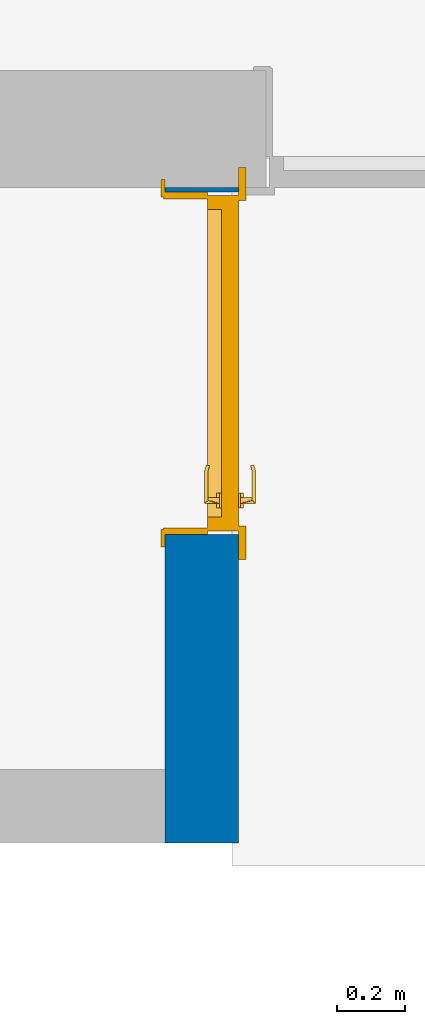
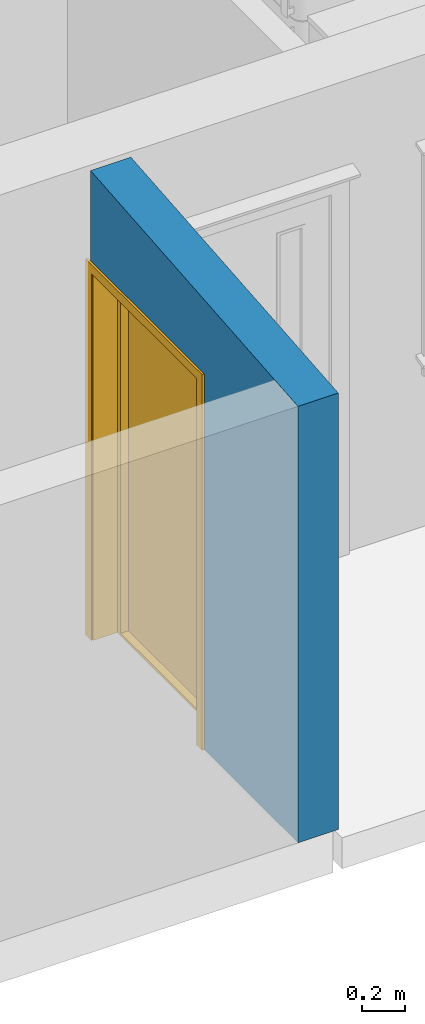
# One storey, part 3 of 65: 1 door, 1 wall, 1 opening.
"""IFC2X3 building model written with IfcOpenShell, lengths in millimetres."""

from ifc_helpers import new_model, entity, si_unit, converted_unit, direction, frame, frame_2d, origin, place, context, subcontext, project, spatial, polyline, rectangle, extrude, clip, bounded_halfspace, faceted_brep, source, transform, mapped, material, material_list, layer, layer_set, layer_usage, type_object, type_shapes, element, fill, save


model = new_model("IFC2X3")

# Units and contexts
model_context = context("Model", 3, precision=0.01, world=origin(), true_north=direction((0.0, 1.0)))
body_context = subcontext(model_context, "Body", "Model", "MODEL_VIEW")
ifc_project = project(units=[si_unit("LENGTHUNIT", "METRE", prefix="MILLI"), si_unit("AREAUNIT", "SQUARE_METRE"), si_unit("VOLUMEUNIT", "CUBIC_METRE"), converted_unit("PLANEANGLEUNIT", "DEGREE", entity("IfcPlaneAngleMeasure", 0.017453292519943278), si_unit("PLANEANGLEUNIT", "RADIAN"), dimensions=[0, 0, 0, 0, 0, 0, 0])], contexts=[model_context])

# Site, building, storey
site_placement = place(None, origin())
site = spatial("IfcSite", under=ifc_project, at=site_placement, Name="Default", CompositionType="ELEMENT")
building_placement = place(site_placement, origin())
building = spatial("IfcBuilding", under=site, at=building_placement, CompositionType="ELEMENT")
storey_placement = place(building_placement, origin())
storey = spatial("IfcBuildingStorey", under=building, at=storey_placement, Name="Et. 1", CompositionType="ELEMENT", Elevation=0.0)

# Wall, opening, door
ifc_material_1 = material(Name="Vegg - Stående Kledning_smal - HVIT")
ifc_layer_1 = layer(ifc_material_1, 19.0)
ifc_material_2 = material(Name="Vegg - Stender - Isolert")
ifc_layer_2 = layer(ifc_material_2, 198.0)
ifc_layer_set = layer_set([ifc_layer_1, ifc_layer_2], Name="Basic Wall:23-Kv(sm)TIG-19_Bod")
ifc_layer_usage = layer_usage(ifc_layer_set, "AXIS2", "NEGATIVE", 108.5)
wall_type = type_object("IfcWallType", Name="Basic Wall:23-Kv(sm)TIG-19_Bod", PredefinedType="STANDARD", material=ifc_layer_set)
wall_placement = place(storey_placement, frame((12788.5095867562, 11408.180957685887, 0.0), z_axis=(0.0, 0.0, 1.0), x_axis=(0.0, -1.0, 0.0)))
wall = element("IfcWallStandardCase", 1, at=wall_placement, inside=storey, type_object=wall_type, material=ifc_layer_usage, Name="Basic Wall:23-Kv(sm)TIG-19_Bod", context=body_context, shape_type="Clipping", body=[
    clip(extrude(rectangle(XDim=1931.999999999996, YDim=217.00000000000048, at=frame_2d((965.9999999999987, -1.0729195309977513e-12), x_axis=(1.0, 0.0))), origin(), (0.0, 0.0, 1.0), 2650.028097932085), bounded_halfspace(frame((0.0, -108.50000000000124, 2650.0280979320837), z_axis=(0.08715574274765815, 0.0, 0.9961946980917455), x_axis=(0.0, 1.0, 0.0)), False, frame((0.0, -108.50000000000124, 2650.0280979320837)), polyline([(0.0, 0.0), (1715.0, 0.0), (1932.0, 0.0), (1932.0, 217.0), (0.0, 217.0), (0.0, 0.0)]))),
])
opening_placement = place(wall_placement, frame((13.0, -108.49999999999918, 0.0)))
opening = element("IfcOpeningElement", 2, at=opening_placement, cuts=wall, Name="YD Hel omramming:10x21M:1", ObjectType="Opening", context=body_context, shape_type="SweptSolid", body=[
    extrude(rectangle(XDim=1010.0000000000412, YDim=2100.0000000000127, at=frame_2d((1050.0000000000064, 505.0000000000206), x_axis=(0.0, -1.0))), frame((0.0, 0.0, 0.0), z_axis=(0.0, 1.0, 0.0), x_axis=(0.0, 0.0, 1.0)), (0.0, 0.0, 1.0), 217.0),
])
ifc_material_3 = material(Name="Karm")
ifc_material_4 = material(Name="Dør - Håndtak")
ifc_material_5 = material(Name="Dør - Dørblad")
ifc_material_6 = material(Name="Dør - Terskel - Eik")
ifc_material_list = material_list([ifc_material_3, ifc_material_4, ifc_material_5, ifc_material_6])
door_style = type_object("IfcDoorStyle", Name="YD Hel omramming:10x21M", ConstructionType="NOTDEFINED", OperationType="SINGLE_SWING_LEFT", ParameterTakesPrecedence=False, Sizeable=False, material=ifc_material_list)
shared_shape = source(origin(), body_context, "Body", "Brep", [
    faceted_brep([(1113.0, 284.5268751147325, 2160.8011105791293), (1113.0, 289.44443697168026, 2179.153701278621), (1113.0, 217.0, 2198.56512966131), (1113.0, 217.0, 2178.894882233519), (-103.0, 284.5268751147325, 2160.8011105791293), (-103.0, 217.0, 2178.894882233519), (-103.0, 217.0, 2198.56512966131), (-103.0, 289.44443697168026, 2179.153701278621)], [[[0, 1, 2, 3]], [[4, 5, 6, 7]], [[1, 0, 4, 7]], [[2, 1, 7, 6]], [[3, 2, 6, 5]], [[0, 3, 5, 4]]]),
    faceted_brep([(25.0, 239.0, 2173.0), (985.0, 239.0, 2173.0), (985.0, 239.0, 2075.0), (25.0, 239.0, 2075.0), (25.0, 217.0, 2173.0), (25.0, 217.0, 2075.0), (985.0, 217.0, 2075.0), (985.0, 217.0, 2173.0)], [[[0, 1, 2, 3]], [[4, 5, 6, 7]], [[1, 0, 4, 7]], [[2, 1, 7, 6]], [[3, 2, 6, 5]], [[0, 3, 5, 4]]]),
    faceted_brep([(-73.0, 239.0, 2179.153701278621), (25.0, 239.0, 2179.153701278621), (25.0, 239.0, 0.0), (-73.0, 239.0, 0.0), (-73.0, 217.0, 2179.153701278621), (25.0, 217.0, 2179.153701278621), (25.0, 217.0, 0.0), (-73.0, 217.0, 0.0)], [[[0, 1, 2, 3]], [[1, 0, 4, 5]], [[2, 1, 5, 6]], [[3, 2, 6, 7]], [[0, 3, 7, 4]], [[4, 7, 6, 5]]]),
    faceted_brep([(985.0, 217.0, 2179.153701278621), (985.0, 217.0, 0.0), (1083.0, 217.0, 0.0), (1083.0, 217.0, 2179.153701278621), (1083.0, 239.0, 2179.153701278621), (985.0, 239.0, 2179.153701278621), (1083.0, 239.0, 0.0), (985.0, 239.0, 0.0)], [[[0, 1, 2, 3]], [[4, 5, 0, 3]], [[6, 4, 3, 2]], [[7, 6, 2, 1]], [[5, 7, 1, 0]], [[5, 4, 6, 7]]]),
    faceted_brep([(910.0, 117.0, 1061.0), (822.4876577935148, 117.0, 1061.0), (804.4308821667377, 121.8382984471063, 1061.0), (807.019072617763, 131.49755670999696, 1061.0), (823.8041827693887, 127.0, 1061.0), (910.0, 127.0, 1061.0), (907.6706285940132, 127.0, 1061.306667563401), (823.8041827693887, 127.0, 1079.0), (910.0, 127.0, 1079.0), (907.6706285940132, 127.0, 1078.6933324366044), (905.499999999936, 127.0, 1077.7942286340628), (903.636038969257, 127.0, 1076.3639610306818), (902.205771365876, 127.0, 1074.500000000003), (901.3066675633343, 127.0, 1072.3293714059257), (901.0, 127.0, 1070.0), (901.3066675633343, 127.0, 1067.6706285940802), (902.205771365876, 127.0, 1065.5000000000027), (903.636038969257, 127.0, 1063.6360389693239), (905.499999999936, 127.0, 1062.2057713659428), (910.0, 117.0, 1079.0), (807.019072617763, 131.49755670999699, 1079.0), (804.4308821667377, 121.83829844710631, 1079.0), (822.4876577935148, 117.0, 1079.0), (919.0, 117.0, 1070.0), (918.7739335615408, 117.0, 1072.0045173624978), (918.1082066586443, 117.0, 1073.9060190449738), (917.0361879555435, 117.0, 1075.6117785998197), (915.6117785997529, 117.0, 1077.0361879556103), (913.9060190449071, 117.0, 1078.1082066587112), (912.0038376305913, 117.0, 1078.7740888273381), (912.0038376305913, 117.0, 1061.2259111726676), (913.9060190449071, 117.0, 1061.8917933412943), (915.6117785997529, 117.0, 1062.9638120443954), (917.0361879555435, 117.0, 1064.3882214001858), (918.1082066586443, 117.0, 1066.0939809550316), (918.7739335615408, 117.0, 1067.9954826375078), (918.6933324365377, 161.0, 1072.3293714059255), (919.0, 161.0, 1070.0), (917.7942286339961, 161.0, 1074.5000000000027), (916.3639610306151, 161.0, 1076.3639610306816), (914.4999999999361, 161.0, 1077.7942286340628), (912.3293714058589, 161.0, 1078.6933324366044), (907.6706285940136, 161.0, 1078.6933324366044), (910.0, 161.0, 1079.0), (905.4999999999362, 161.0, 1077.7942286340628), (903.6360389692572, 161.0, 1076.3639610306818), (902.2057713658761, 161.0, 1074.500000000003), (901.3066675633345, 161.0, 1072.3293714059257), (901.0, 161.0, 1070.0), (901.3066675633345, 161.0, 1067.67062859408), (902.2057713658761, 161.0, 1065.5000000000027), (903.6360389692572, 161.0, 1063.6360389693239), (905.4999999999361, 161.0, 1062.2057713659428), (907.6706285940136, 161.0, 1061.306667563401), (910.0, 161.0, 1061.0), (912.3293714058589, 161.0, 1061.306667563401), (914.4999999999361, 161.0, 1062.2057713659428), (916.363961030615, 161.0, 1063.6360389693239), (918.6933324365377, 161.0, 1067.6706285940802), (917.7942286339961, 161.0, 1065.500000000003), (899.0, 161.0, 1089.0525588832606), (894.443650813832, 161.0, 1085.556349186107), (904.3059810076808, 161.0, 1091.2503681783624), (910.0, 161.0, 1092.0), (915.6940189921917, 161.0, 1091.2503681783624), (921.0, 161.0, 1089.0525588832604), (925.5563491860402, 161.0, 1085.556349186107), (929.0525588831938, 161.0, 1081.0), (931.2503681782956, 161.0, 1075.6940189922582), (932.0, 161.0, 1070.0), (931.2503681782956, 161.0, 1064.3059810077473), (929.0525588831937, 161.0, 1059.0), (925.55634918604, 161.0, 1054.4436508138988), (921.0, 161.0, 1050.947441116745), (915.6940189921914, 161.0, 1048.7496318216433), (910.0, 161.0, 1048.0), (904.3059810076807, 161.0, 1048.7496318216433), (899.0, 161.0, 1050.9474411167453), (894.443650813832, 161.0, 1054.4436508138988), (890.9474411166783, 161.0, 1059.0), (888.7496318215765, 161.0, 1064.3059810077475), (888.0, 161.0, 1070.0), (888.7496318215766, 161.0, 1075.6940189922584), (890.9474411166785, 161.0, 1081.0), (904.3059810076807, 167.0, 1048.7496318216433), (899.0, 167.0, 1050.9474411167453), (894.443650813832, 167.0, 1054.4436508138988), (890.9474411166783, 167.0, 1059.0), (888.7496318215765, 167.0, 1064.3059810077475), (888.0, 167.0, 1070.0), (888.7496318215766, 167.0, 1075.6940189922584), (890.9474411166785, 167.0, 1081.0), (894.443650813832, 167.0, 1085.556349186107), (899.0, 167.0, 1089.0525588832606), (904.3059810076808, 167.0, 1091.2503681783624), (910.0, 167.0, 1092.0), (915.6940189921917, 167.0, 1091.2503681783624), (921.0, 167.0, 1089.0525588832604), (925.5563491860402, 167.0, 1085.556349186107), (929.0525588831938, 167.0, 1081.0), (931.2503681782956, 167.0, 1075.6940189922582), (932.0, 167.0, 1070.0), (931.2503681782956, 167.0, 1064.3059810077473), (929.0525588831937, 167.0, 1059.0), (925.55634918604, 167.0, 1054.4436508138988), (921.0, 167.0, 1050.947441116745), (915.6940189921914, 167.0, 1048.7496318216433), (910.0, 167.0, 1048.0)], [[[0, 1, 2, 3, 4, 5]], [[6, 5, 4, 7, 8, 9, 10, 11, 12, 13, 14, 15, 16, 17, 18]], [[19, 8, 7, 20, 21, 22]], [[23, 24, 25, 26, 27, 28, 29, 19, 22, 1, 0, 30, 31, 32, 33, 34, 35]], [[3, 2, 21, 20]], [[7, 4, 3, 20]], [[1, 22, 21, 2]], [[36, 24, 37]], [[36, 8, 25]], [[38, 39, 8]], [[40, 8, 39]], [[40, 41, 8]], [[38, 8, 36]], [[8, 19, 29]], [[36, 25, 24]], [[24, 23, 37]], [[8, 28, 27]], [[27, 26, 8]], [[8, 26, 25]], [[8, 29, 28]], [[42, 9, 8, 43]], [[44, 10, 9, 42]], [[12, 11, 45, 46]], [[46, 47, 13, 12]], [[44, 45, 11, 10]], [[48, 14, 13, 47]], [[43, 8, 41]], [[49, 15, 14, 48]], [[50, 16, 15, 49]], [[18, 17, 51, 52]], [[52, 53, 6, 18]], [[5, 6, 53, 54]], [[50, 51, 17, 16]], [[5, 30, 0]], [[55, 56, 5]], [[56, 57, 5]], [[58, 5, 59]], [[58, 34, 5]], [[5, 57, 59]], [[37, 35, 58]], [[31, 30, 5]], [[32, 31, 5]], [[34, 33, 5]], [[33, 32, 5]], [[58, 35, 34]], [[37, 23, 35]], [[55, 5, 54]], [[44, 42, 60]], [[61, 44, 60]], [[44, 61, 45]], [[42, 62, 60]], [[62, 42, 43]], [[62, 43, 63]], [[41, 63, 43]], [[63, 41, 64]], [[41, 40, 64]], [[65, 64, 40]], [[39, 65, 40]], [[65, 39, 66]], [[38, 66, 39]], [[67, 66, 38]], [[36, 67, 38]], [[68, 67, 36]], [[68, 36, 37]], [[68, 37, 69]], [[69, 37, 58]], [[69, 58, 70]], [[70, 58, 59]], [[70, 59, 71]], [[72, 71, 59]], [[72, 59, 57]], [[57, 73, 72]], [[57, 56, 73]], [[74, 73, 56]], [[55, 74, 56]], [[55, 75, 74]], [[75, 55, 54]], [[54, 76, 75]], [[53, 76, 54]], [[76, 53, 77]], [[52, 77, 53]], [[78, 77, 52]], [[78, 52, 51]], [[78, 51, 79]], [[79, 51, 50]], [[79, 50, 80]], [[49, 80, 50]], [[81, 80, 49]], [[49, 48, 81]], [[48, 82, 81]], [[82, 48, 47]], [[82, 47, 83]], [[47, 46, 83]], [[45, 83, 46]], [[61, 83, 45]], [[84, 85, 86, 87, 88, 89, 90, 91, 92, 93, 94, 95, 96, 97, 98, 99, 100, 101, 102, 103, 104, 105, 106, 107]], [[100, 68, 69, 101]], [[99, 67, 68, 100]], [[65, 66, 98, 97]], [[99, 98, 66, 67]], [[64, 65, 97, 96]], [[63, 64, 96, 95]], [[94, 62, 63, 95]], [[93, 60, 62, 94]], [[83, 61, 92, 91]], [[93, 92, 61, 60]], [[82, 83, 91, 90]], [[81, 82, 90, 89]], [[88, 80, 81, 89]], [[87, 79, 80, 88]], [[77, 78, 86, 85]], [[87, 86, 78, 79]], [[76, 77, 85, 84]], [[75, 76, 84, 107]], [[106, 74, 75, 107]], [[105, 73, 74, 106]], [[71, 72, 104, 103]], [[105, 104, 72, 73]], [[70, 71, 103, 102]], [[69, 70, 102, 101]]]),
    faceted_brep([(899.0, 152.0, 1019.0525588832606), (894.443650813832, 152.0, 1015.556349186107), (890.9474411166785, 152.0, 1011.0), (888.7496318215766, 152.0, 1005.6940189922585), (888.0, 152.0, 1000.0), (888.7496318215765, 152.0, 994.3059810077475), (890.9474411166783, 152.0, 989.0), (894.443650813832, 152.0, 984.4436508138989), (899.0, 152.0, 980.9474411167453), (904.3059810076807, 152.0, 978.7496318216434), (910.0, 152.0, 978.0), (915.6940189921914, 152.0, 978.7496318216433), (921.0, 152.0, 980.9474411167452), (925.55634918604, 152.0, 984.4436508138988), (929.0525588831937, 152.0, 989.0), (931.2503681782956, 152.0, 994.3059810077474), (932.0, 152.0, 1000.0), (931.2503681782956, 152.0, 1005.6940189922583), (929.0525588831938, 152.0, 1011.0), (925.5563491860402, 152.0, 1015.5563491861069), (921.0, 152.0, 1019.0525588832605), (915.6940189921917, 152.0, 1021.2503681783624), (910.0, 152.0, 1022.0), (904.3059810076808, 152.0, 1021.2503681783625), (915.6940189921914, 167.0, 978.7496318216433), (910.0, 167.0, 978.0), (904.3059810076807, 167.0, 978.7496318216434), (899.0, 167.0, 980.9474411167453), (894.443650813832, 167.0, 984.4436508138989), (890.9474411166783, 167.0, 989.0), (888.7496318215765, 167.0, 994.3059810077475), (888.0, 167.0, 1000.0), (888.7496318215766, 167.0, 1005.6940189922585), (890.9474411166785, 167.0, 1011.0), (894.443650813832, 167.0, 1015.556349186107), (899.0, 167.0, 1019.0525588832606), (904.3059810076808, 167.0, 1021.2503681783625), (910.0, 167.0, 1022.0), (915.6940189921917, 167.0, 1021.2503681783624), (921.0, 167.0, 1019.0525588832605), (925.5563491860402, 167.0, 1015.5563491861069), (929.0525588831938, 167.0, 1011.0), (931.2503681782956, 167.0, 1005.6940189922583), (932.0, 167.0, 1000.0), (931.2503681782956, 167.0, 994.3059810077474), (929.0525588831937, 167.0, 989.0), (925.55634918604, 167.0, 984.4436508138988), (921.0, 167.0, 980.9474411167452)], [[[0, 1, 2, 3, 4, 5, 6, 7, 8, 9, 10, 11, 12, 13, 14, 15, 16, 17, 18, 19, 20, 21, 22, 23]], [[24, 25, 26, 27, 28, 29, 30, 31, 32, 33, 34, 35, 36, 37, 38, 39, 40, 41, 42, 43, 44, 45, 46, 47]], [[42, 17, 16, 43]], [[41, 18, 17, 42]], [[20, 19, 40, 39]], [[41, 40, 19, 18]], [[21, 20, 39, 38]], [[22, 21, 38, 37]], [[36, 23, 22, 37]], [[35, 0, 23, 36]], [[2, 1, 34, 33]], [[35, 34, 1, 0]], [[3, 2, 33, 32]], [[4, 3, 32, 31]], [[30, 5, 4, 31]], [[29, 6, 5, 30]], [[8, 7, 28, 27]], [[29, 28, 7, 6]], [[9, 8, 27, 26]], [[10, 9, 26, 25]], [[24, 11, 10, 25]], [[47, 12, 11, 24]], [[14, 13, 46, 45]], [[46, 13, 12, 47]], [[15, 44, 43, 16]], [[15, 14, 45, 44]]]),
    faceted_brep([(899.0, 223.0, 1089.0525588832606), (907.6706285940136, 223.0, 1078.6933324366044), (905.4999999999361, 223.0, 1077.7942286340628), (894.443650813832, 223.0, 1085.556349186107), (904.3059810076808, 223.0, 1091.2503681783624), (910.0, 223.0, 1079.0), (910.0, 223.0, 1092.0), (912.3293714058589, 223.0, 1078.6933324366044), (915.6940189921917, 223.0, 1091.2503681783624), (914.4999999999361, 223.0, 1077.7942286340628), (921.0, 223.0, 1089.0525588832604), (916.363961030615, 223.0, 1076.3639610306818), (925.5563491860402, 223.0, 1085.556349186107), (917.7942286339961, 223.0, 1074.5000000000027), (929.0525588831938, 223.0, 1081.0), (918.6933324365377, 223.0, 1072.3293714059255), (931.2503681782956, 223.0, 1075.6940189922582), (919.0, 223.0, 1070.0), (932.0, 223.0, 1070.0), (918.6933324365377, 223.0, 1067.6706285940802), (931.2503681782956, 223.0, 1064.3059810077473), (917.7942286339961, 223.0, 1065.500000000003), (929.0525588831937, 223.0, 1059.0), (925.55634918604, 223.0, 1054.4436508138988), (916.363961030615, 223.0, 1063.6360389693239), (921.0, 223.0, 1050.947441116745), (914.4999999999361, 223.0, 1062.2057713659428), (915.6940189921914, 223.0, 1048.7496318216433), (912.3293714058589, 223.0, 1061.306667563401), (910.0, 223.0, 1048.0), (910.0, 223.0, 1061.0), (904.3059810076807, 223.0, 1048.7496318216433), (907.6706285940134, 223.0, 1061.306667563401), (899.0, 223.0, 1050.9474411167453), (905.4999999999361, 223.0, 1062.2057713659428), (894.443650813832, 223.0, 1054.4436508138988), (903.6360389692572, 223.0, 1063.6360389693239), (890.9474411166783, 223.0, 1059.0), (902.2057713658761, 223.0, 1065.5000000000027), (888.7496318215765, 223.0, 1064.3059810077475), (901.3066675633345, 223.0, 1067.67062859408), (888.0, 223.0, 1070.0), (901.0, 223.0, 1070.0), (888.7496318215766, 223.0, 1075.6940189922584), (901.3066675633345, 223.0, 1072.3293714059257), (890.9474411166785, 223.0, 1081.0), (903.6360389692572, 223.0, 1076.3639610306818), (902.2057713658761, 223.0, 1074.500000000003), (910.0, 217.0, 1048.0), (915.6940189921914, 217.0, 1048.7496318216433), (921.0, 217.0, 1050.947441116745), (925.55634918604, 217.0, 1054.4436508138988), (929.0525588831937, 217.0, 1059.0), (931.2503681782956, 217.0, 1064.3059810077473), (932.0, 217.0, 1070.0), (931.2503681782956, 217.0, 1075.6940189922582), (929.0525588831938, 217.0, 1081.0), (925.5563491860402, 217.0, 1085.556349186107), (921.0, 217.0, 1089.0525588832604), (915.6940189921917, 217.0, 1091.2503681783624), (910.0, 217.0, 1092.0), (904.3059810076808, 217.0, 1091.2503681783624), (899.0, 217.0, 1089.0525588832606), (894.443650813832, 217.0, 1085.556349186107), (890.9474411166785, 217.0, 1081.0), (888.7496318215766, 217.0, 1075.6940189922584), (888.0, 217.0, 1070.0), (888.7496318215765, 217.0, 1064.3059810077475), (890.9474411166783, 217.0, 1059.0), (894.443650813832, 217.0, 1054.4436508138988), (899.0, 217.0, 1050.9474411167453), (904.3059810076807, 217.0, 1048.7496318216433), (918.7739335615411, 267.0, 1072.0045173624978), (918.1082066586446, 267.0, 1073.9060190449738), (910.0, 257.0, 1079.0), (912.0038376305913, 267.0, 1078.7740888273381), (910.0, 267.0, 1079.0), (919.0, 267.0, 1070.0), (915.6117785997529, 267.0, 1077.0361879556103), (913.9060190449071, 267.0, 1078.1082066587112), (917.0361879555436, 267.0, 1075.61177859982), (907.6706285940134, 257.0, 1078.6933324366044), (905.499999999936, 257.0, 1077.7942286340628), (903.6360389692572, 257.0, 1076.3639610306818), (902.2057713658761, 257.0, 1074.500000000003), (901.3066675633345, 257.0, 1072.3293714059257), (901.0, 257.0, 1070.0), (901.3066675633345, 257.0, 1067.6706285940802), (902.205771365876, 257.0, 1065.5000000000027), (903.6360389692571, 257.0, 1063.6360389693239), (905.499999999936, 257.0, 1062.2057713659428), (907.6706285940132, 257.0, 1061.306667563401), (910.0, 257.0, 1061.0), (910.0, 267.0, 1061.0), (912.0038376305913, 267.0, 1061.2259111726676), (918.1082066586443, 267.0, 1066.0939809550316), (918.7739335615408, 267.0, 1067.9954826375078), (913.9060190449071, 267.0, 1061.8917933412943), (915.6117785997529, 267.0, 1062.9638120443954), (917.0361879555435, 267.0, 1064.3882214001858), (823.8041827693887, 257.0, 1061.0), (807.019072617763, 252.50244329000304, 1061.0), (804.4308821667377, 262.1617015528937, 1061.0), (822.4876577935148, 267.0, 1061.0), (823.8041827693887, 257.0, 1079.0), (822.4876577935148, 267.0, 1079.0), (804.4308821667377, 262.1617015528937, 1079.0), (807.019072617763, 252.50244329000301, 1079.0)], [[[0, 1, 2]], [[0, 2, 3]], [[0, 4, 1]], [[5, 1, 4]], [[6, 5, 4]], [[5, 6, 7]], [[8, 7, 6]], [[8, 9, 7]], [[9, 8, 10]], [[9, 10, 11]], [[12, 11, 10]], [[11, 12, 13]], [[13, 12, 14]], [[13, 14, 15]], [[15, 14, 16]], [[17, 15, 16]], [[18, 17, 16]], [[19, 17, 18]], [[20, 19, 18]], [[21, 19, 20]], [[22, 21, 20]], [[21, 22, 23]], [[24, 21, 23]], [[23, 25, 24]], [[25, 26, 24]], [[26, 25, 27]], [[26, 27, 28]], [[27, 29, 28]], [[30, 28, 29]], [[29, 31, 30]], [[30, 31, 32]], [[33, 32, 31]], [[32, 33, 34]], [[34, 33, 35]], [[36, 34, 35]], [[37, 36, 35]], [[38, 36, 37]], [[39, 38, 37]], [[38, 39, 40]], [[40, 39, 41]], [[41, 42, 40]], [[41, 43, 42]], [[44, 42, 43]], [[45, 44, 43]], [[46, 45, 3]], [[45, 47, 44]], [[47, 45, 46]], [[46, 3, 2]], [[48, 49, 50, 51, 52, 53, 54, 55, 56, 57, 58, 59, 60, 61, 62, 63, 64, 65, 66, 67, 68, 69, 70, 71]], [[54, 18, 16, 55]], [[55, 16, 14, 56]], [[58, 57, 12, 10]], [[12, 57, 56, 14]], [[59, 58, 10, 8]], [[59, 8, 6, 60]], [[60, 6, 4, 61]], [[61, 4, 0, 62]], [[64, 63, 3, 45]], [[3, 63, 62, 0]], [[65, 64, 45, 43]], [[65, 43, 41, 66]], [[66, 41, 39, 67]], [[67, 39, 37, 68]], [[70, 69, 35, 33]], [[35, 69, 68, 37]], [[71, 70, 33, 31]], [[71, 31, 29, 48]], [[48, 29, 27, 49]], [[49, 27, 25, 50]], [[52, 51, 23, 22]], [[23, 51, 50, 25]], [[53, 52, 22, 20]], [[53, 20, 18, 54]], [[17, 72, 15]], [[73, 74, 15]], [[74, 11, 13]], [[11, 74, 9]], [[74, 7, 9]], [[15, 74, 13]], [[75, 76, 74]], [[72, 73, 15]], [[17, 77, 72]], [[78, 79, 74]], [[74, 80, 78]], [[73, 80, 74]], [[79, 75, 74]], [[5, 74, 81, 1]], [[1, 81, 82, 2]], [[47, 46, 83, 84]], [[85, 44, 47, 84]], [[83, 46, 2, 82]], [[44, 85, 86, 42]], [[7, 74, 5]], [[42, 86, 87, 40]], [[40, 87, 88, 38]], [[34, 36, 89, 90]], [[91, 32, 34, 90]], [[30, 32, 91, 92]], [[89, 36, 38, 88]], [[93, 94, 92]], [[92, 26, 28]], [[92, 24, 26]], [[21, 92, 19]], [[92, 95, 19]], [[21, 24, 92]], [[19, 96, 17]], [[92, 94, 97]], [[92, 97, 98]], [[92, 99, 95]], [[92, 98, 99]], [[95, 96, 19]], [[96, 77, 17]], [[30, 92, 28]], [[92, 100, 101, 102, 103, 93]], [[100, 92, 91, 90, 89, 88, 87, 86, 85, 84, 83, 82, 81, 74, 104]], [[104, 74, 76, 105, 106, 107]], [[106, 102, 101, 107]], [[101, 100, 104, 107]], [[106, 105, 103, 102]], [[73, 72, 77, 96, 95, 99, 98, 97, 94, 93, 103, 105, 76, 75, 79, 78, 80]]]),
    faceted_brep([(904.3059810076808, 232.0, 1021.2503681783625), (910.0, 232.0, 1022.0), (915.6940189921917, 232.0, 1021.2503681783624), (921.0, 232.0, 1019.0525588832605), (925.5563491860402, 232.0, 1015.5563491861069), (929.0525588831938, 232.0, 1011.0), (931.2503681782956, 232.0, 1005.6940189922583), (932.0, 232.0, 1000.0), (931.2503681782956, 232.0, 994.3059810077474), (929.0525588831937, 232.0, 989.0), (925.55634918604, 232.0, 984.4436508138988), (921.0, 232.0, 980.9474411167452), (915.6940189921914, 232.0, 978.7496318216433), (910.0, 232.0, 978.0), (904.3059810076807, 232.0, 978.7496318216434), (899.0, 232.0, 980.9474411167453), (894.443650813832, 232.0, 984.4436508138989), (890.9474411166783, 232.0, 989.0), (888.7496318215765, 232.0, 994.3059810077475), (888.0, 232.0, 1000.0), (888.7496318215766, 232.0, 1005.6940189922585), (890.9474411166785, 232.0, 1011.0), (894.443650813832, 232.0, 1015.556349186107), (899.0, 232.0, 1019.0525588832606), (904.3059810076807, 217.0, 978.7496318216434), (910.0, 217.0, 978.0), (915.6940189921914, 217.0, 978.7496318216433), (921.0, 217.0, 980.9474411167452), (925.55634918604, 217.0, 984.4436508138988), (929.0525588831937, 217.0, 989.0), (931.2503681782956, 217.0, 994.3059810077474), (932.0, 217.0, 1000.0), (931.2503681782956, 217.0, 1005.6940189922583), (929.0525588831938, 217.0, 1011.0), (925.5563491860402, 217.0, 1015.5563491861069), (921.0, 217.0, 1019.0525588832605), (915.6940189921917, 217.0, 1021.2503681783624), (910.0, 217.0, 1022.0), (904.3059810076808, 217.0, 1021.2503681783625), (899.0, 217.0, 1019.0525588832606), (894.443650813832, 217.0, 1015.556349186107), (890.9474411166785, 217.0, 1011.0), (888.7496318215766, 217.0, 1005.6940189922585), (888.0, 217.0, 1000.0), (888.7496318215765, 217.0, 994.3059810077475), (890.9474411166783, 217.0, 989.0), (894.443650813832, 217.0, 984.4436508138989), (899.0, 217.0, 980.9474411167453)], [[[0, 1, 2, 3, 4, 5, 6, 7, 8, 9, 10, 11, 12, 13, 14, 15, 16, 17, 18, 19, 20, 21, 22, 23]], [[24, 25, 26, 27, 28, 29, 30, 31, 32, 33, 34, 35, 36, 37, 38, 39, 40, 41, 42, 43, 44, 45, 46, 47]], [[31, 7, 6, 32]], [[32, 6, 5, 33]], [[35, 34, 4, 3]], [[4, 34, 33, 5]], [[36, 35, 3, 2]], [[36, 2, 1, 37]], [[37, 1, 0, 38]], [[38, 0, 23, 39]], [[41, 40, 22, 21]], [[22, 40, 39, 23]], [[42, 41, 21, 20]], [[42, 20, 19, 43]], [[43, 19, 18, 44]], [[44, 18, 17, 45]], [[47, 46, 16, 15]], [[16, 46, 45, 17]], [[24, 47, 15, 14]], [[24, 14, 13, 25]], [[25, 13, 12, 26]], [[26, 12, 11, 27]], [[29, 28, 10, 9]], [[27, 11, 10, 28]], [[7, 31, 30, 8]], [[29, 9, 8, 30]]]),
    faceted_brep([(958.0, 217.0, 0.0), (1000.0, 217.0, 0.0), (1000.0, 125.0, 0.0), (958.0, 125.0, 0.0), (958.0, 217.0, 2048.0), (52.0, 217.0, 2048.0), (52.0, 217.0, 0.0), (10.0, 217.0, 0.0), (10.0, 217.0, 2090.0), (1000.0, 217.0, 2090.0), (1000.0, 125.0, 2090.0), (10.0, 125.0, 2090.0), (10.0, 125.0, 0.0), (52.0, 125.0, 0.0), (52.0, 125.0, 2048.0), (958.0, 125.0, 2048.0)], [[[0, 1, 2, 3]], [[1, 0, 4, 5, 6, 7, 8, 9]], [[2, 1, 9, 10]], [[3, 2, 10, 11, 12, 13, 14, 15]], [[0, 3, 15, 4]], [[10, 9, 8, 11]], [[4, 15, 14, 5]], [[6, 13, 12, 7]], [[11, 8, 7, 12]], [[5, 14, 13, 6]]]),
    faceted_brep([(52.0, 167.0, 5.0), (958.0, 167.0, 5.0), (958.0, 167.0, 2048.0), (52.0, 167.0, 2048.0), (52.0, 217.0, 5.0), (52.0, 217.0, 2048.0), (958.0, 217.0, 2048.0), (958.0, 217.0, 5.0)], [[[0, 1, 2, 3]], [[4, 5, 6, 7]], [[1, 0, 4, 7]], [[2, 1, 7, 6]], [[3, 2, 6, 5]], [[0, 3, 5, 4]]]),
    faceted_brep([(958.0, 217.0, 5.0), (958.0, 167.0, 5.0), (958.0, 167.0, 15.0), (958.0, 125.0, 15.0), (958.0, 125.0, 0.0), (958.0, 217.0, 0.0), (52.0, 217.0, 5.0), (52.0, 217.0, 0.0), (52.0, 125.0, 0.0), (52.0, 125.0, 15.0), (52.0, 167.0, 15.0), (52.0, 167.0, 5.0)], [[[0, 1, 2, 3, 4, 5]], [[6, 7, 8, 9, 10, 11]], [[1, 0, 6, 11]], [[2, 1, 11, 10]], [[3, 2, 10, 9]], [[4, 3, 9, 8]], [[5, 4, 8, 7]], [[0, 5, 7, 6]]]),
    faceted_brep([(19.828902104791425, 125.0, 0.0), (19.828902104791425, -5.0, 0.0), (14.828902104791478, -5.0, 0.0), (14.828902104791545, -12.0, 0.0), (-37.17109789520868, -12.0, 0.0), (-37.17109789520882, 0.0, 0.0), (0.0, 0.0, 0.0), (0.0, 125.0, 0.0), (19.828902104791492, 125.0, 2080.171097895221), (19.828902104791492, -5.0, 2080.171097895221), (990.171097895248, -5.0, 2080.171097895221), (990.171097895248, -5.0, 0.0), (995.171097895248, -5.0, 0.0), (995.1710978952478, -5.0, 2085.171097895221), (14.828902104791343, -5.0, 2085.1710978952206), (0.0, 125.0, 2100.0), (0.0, 0.0, 2100.0), (1010.0, 125.0, 2100.0), (1010.0, 125.0, 0.0), (990.171097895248, 125.0, 0.0), (990.171097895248, 125.0, 2080.171097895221), (1010.0, 0.0, 2100.0), (1010.0, 0.0, 0.0), (1047.1710978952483, 0.0, 0.0), (1047.1710978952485, -12.0, 0.0), (995.171097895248, -12.0, 0.0), (-37.171097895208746, 0.0, 2137.1710978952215), (1047.1710978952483, 0.0, 2137.1710978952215), (14.82890210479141, -12.0, 2085.171097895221), (995.171097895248, -12.0, 2085.1710978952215), (1047.171097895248, -12.0, 2137.1710978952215), (-37.17109789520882, -12.0, 2137.1710978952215)], [[[0, 1, 2, 3, 4, 5, 6, 7]], [[1, 0, 8, 9]], [[1, 9, 10, 11, 12, 13, 14, 2]], [[15, 7, 6, 16]], [[0, 7, 15, 17, 18, 19, 20, 8]], [[9, 8, 20, 10]], [[17, 15, 16, 21]], [[19, 18, 22, 23, 24, 25, 12, 11]], [[11, 10, 20, 19]], [[18, 17, 21, 22]], [[5, 26, 27, 23, 22, 21, 16, 6]], [[28, 3, 2, 14]], [[4, 3, 28, 29, 25, 24, 30, 31]], [[5, 4, 31, 26]], [[29, 28, 14, 13]], [[27, 26, 31, 30]], [[25, 29, 13, 12]], [[23, 27, 30, 24]]]),
])
type_shapes(door_style, [shared_shape])
door_placement = place(opening_placement, origin())
door = element("IfcDoor", 3, at=door_placement, inside=storey, type_object=door_style, material=ifc_material_list, Name="YD Hel omramming:10x21M", OverallHeight=2100.0000000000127, OverallWidth=1010.0000000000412, context=body_context, shape_type="MappedRepresentation", body=[
    mapped(shared_shape, transform((0.0, 0.0, 0.0), scale=1.0)),
])
fill(opening, door)

save(model, "model.ifc")
